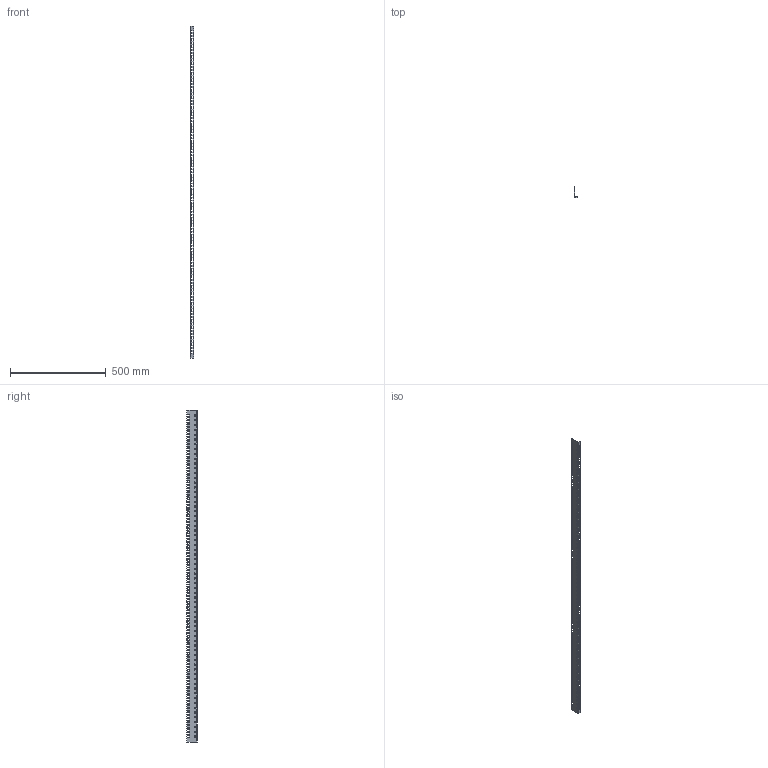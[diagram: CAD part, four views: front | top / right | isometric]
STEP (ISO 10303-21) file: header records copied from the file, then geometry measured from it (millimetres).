
FILE_DESCRIPTION (( 'STEP AP203' ), '1' );
FILE_NAME ('MG 180 IT Ðåéêà âåðòèêàëüíàÿ 19''''.STEP', '2017-11-19T08:04:03', ( 'user' ), ( '' ), 'SwSTEP 2.0', 'SolidWorks 2012', '' );
FILE_SCHEMA (( 'CONFIG_CONTROL_DESIGN' ));
Length unit declared in the file: millimetre
Products named in the file (1): MG 180 IT Ðåéêà âåðòèêàëüíàÿ 19''''
Bounding box: 18.5 x 54.5 x 1733 mm (x, y, z)
Volume: 195820.7 mm3; surface area: 223555.2 mm2
Topology: 1 solids, 1 shells, 2134 faces, 6312 edges, 4104 vertices
Faces by surface type: cylinder 1134, plane 924, bspline 76
Full cylindrical faces by diameter (mm): 6.5 x68
Entity records: 76917 total; most frequent: CARTESIAN_POINT 17727, ORIENTED_EDGE 12488, DIRECTION 12174, EDGE_CURVE 6244, AXIS2_PLACEMENT_3D 4175, VERTEX_POINT 4104, LINE 3824, VECTOR 3824
